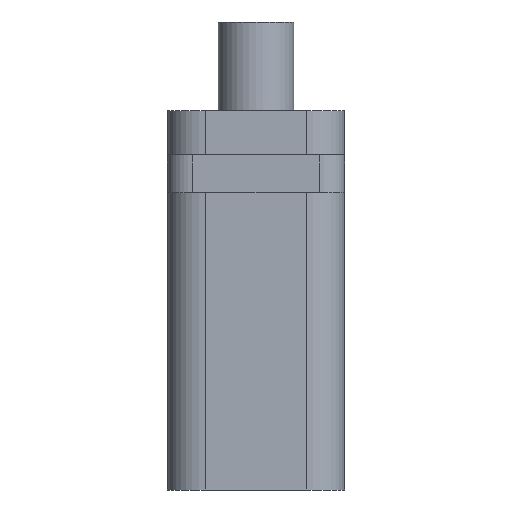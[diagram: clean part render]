
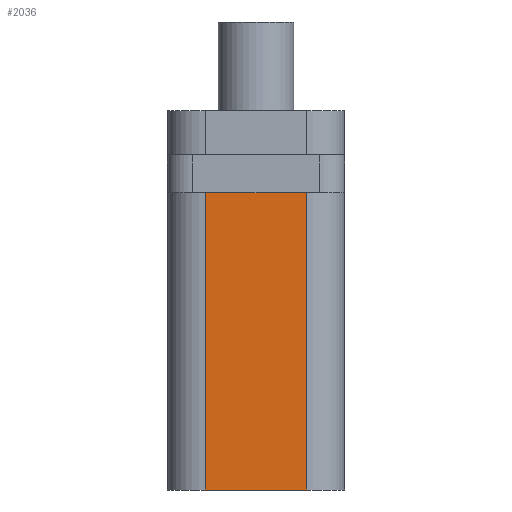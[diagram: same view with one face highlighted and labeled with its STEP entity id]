
A CAD part, left-side view. The second image highlights one B-rep face of the part: STEP entity #2036.
In plain terms, the highlighted planar face has unit normal (-1, 0, 0).
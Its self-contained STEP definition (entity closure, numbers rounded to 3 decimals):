
#761 = PLANE('',#762);
#762 = AXIS2_PLACEMENT_3D('',#763,#764,#765);
#763 = CARTESIAN_POINT('',(-12.,-7.,-15.));
#764 = DIRECTION('',(0.,0.,1.));
#765 = DIRECTION('',(1.,0.,0.));
#789 = CYLINDRICAL_SURFACE('',#790,3.);
#790 = AXIS2_PLACEMENT_3D('',#791,#792,#793);
#791 = CARTESIAN_POINT('',(-9.,-4.,-15.));
#792 = DIRECTION('',(0.,0.,1.));
#793 = DIRECTION('',(-1.,-0.,0.));
#817 = PLANE('',#818);
#818 = AXIS2_PLACEMENT_3D('',#819,#820,#821);
#819 = CARTESIAN_POINT('',(-14.,-7.,8.5));
#820 = DIRECTION('',(0.,0.,1.));
#821 = DIRECTION('',(1.,0.,0.));
#1020 = CYLINDRICAL_SURFACE('',#1021,3.);
#1021 = AXIS2_PLACEMENT_3D('',#1022,#1023,#1024);
#1022 = CARTESIAN_POINT('',(-9.,4.,-15.));
#1023 = DIRECTION('',(0.,0.,1.));
#1024 = DIRECTION('',(-1.,-0.,0.));
#1710 = EDGE_CURVE('',#1711,#1713,#1715,.T.);
#1711 = VERTEX_POINT('',#1712);
#1712 = CARTESIAN_POINT('',(-12.,-4.,-15.));
#1713 = VERTEX_POINT('',#1714);
#1714 = CARTESIAN_POINT('',(-12.,4.,-15.));
#1715 = SURFACE_CURVE('',#1716,(#1720,#1727),.PCURVE_S1.);
#1716 = LINE('',#1717,#1718);
#1717 = CARTESIAN_POINT('',(-12.,-7.,-15.));
#1718 = VECTOR('',#1719,1.);
#1719 = DIRECTION('',(0.,1.,0.));
#1720 = PCURVE('',#761,#1721);
#1721 = DEFINITIONAL_REPRESENTATION('',(#1722),#1726);
#1722 = LINE('',#1723,#1724);
#1723 = CARTESIAN_POINT('',(0.,0.));
#1724 = VECTOR('',#1725,1.);
#1725 = DIRECTION('',(0.,1.));
#1726 = ( GEOMETRIC_REPRESENTATION_CONTEXT(2) 
PARAMETRIC_REPRESENTATION_CONTEXT() REPRESENTATION_CONTEXT('2D SPACE',''
  ) );
#1727 = PCURVE('',#1728,#1733);
#1728 = PLANE('',#1729);
#1729 = AXIS2_PLACEMENT_3D('',#1730,#1731,#1732);
#1730 = CARTESIAN_POINT('',(-12.,-7.,-15.));
#1731 = DIRECTION('',(1.,0.,0.));
#1732 = DIRECTION('',(0.,0.,1.));
#1733 = DEFINITIONAL_REPRESENTATION('',(#1734),#1738);
#1734 = LINE('',#1735,#1736);
#1735 = CARTESIAN_POINT('',(0.,0.));
#1736 = VECTOR('',#1737,1.);
#1737 = DIRECTION('',(0.,-1.));
#1738 = ( GEOMETRIC_REPRESENTATION_CONTEXT(2) 
PARAMETRIC_REPRESENTATION_CONTEXT() REPRESENTATION_CONTEXT('2D SPACE',''
  ) );
#1839 = EDGE_CURVE('',#1711,#1840,#1842,.T.);
#1840 = VERTEX_POINT('',#1841);
#1841 = CARTESIAN_POINT('',(-12.,-4.,8.5));
#1842 = SURFACE_CURVE('',#1843,(#1847,#1854),.PCURVE_S1.);
#1843 = LINE('',#1844,#1845);
#1844 = CARTESIAN_POINT('',(-12.,-4.,-15.));
#1845 = VECTOR('',#1846,1.);
#1846 = DIRECTION('',(0.,0.,1.));
#1847 = PCURVE('',#789,#1848);
#1848 = DEFINITIONAL_REPRESENTATION('',(#1849),#1853);
#1849 = LINE('',#1850,#1851);
#1850 = CARTESIAN_POINT('',(0.,0.));
#1851 = VECTOR('',#1852,1.);
#1852 = DIRECTION('',(0.,1.));
#1853 = ( GEOMETRIC_REPRESENTATION_CONTEXT(2) 
PARAMETRIC_REPRESENTATION_CONTEXT() REPRESENTATION_CONTEXT('2D SPACE',''
  ) );
#1854 = PCURVE('',#1728,#1855);
#1855 = DEFINITIONAL_REPRESENTATION('',(#1856),#1860);
#1856 = LINE('',#1857,#1858);
#1857 = CARTESIAN_POINT('',(0.,-3.));
#1858 = VECTOR('',#1859,1.);
#1859 = DIRECTION('',(1.,0.));
#1860 = ( GEOMETRIC_REPRESENTATION_CONTEXT(2) 
PARAMETRIC_REPRESENTATION_CONTEXT() REPRESENTATION_CONTEXT('2D SPACE',''
  ) );
#1893 = EDGE_CURVE('',#1894,#1840,#1896,.T.);
#1894 = VERTEX_POINT('',#1895);
#1895 = CARTESIAN_POINT('',(-12.,4.,8.5));
#1896 = SURFACE_CURVE('',#1897,(#1901,#1907),.PCURVE_S1.);
#1897 = LINE('',#1898,#1899);
#1898 = CARTESIAN_POINT('',(-12.,-7.,8.5));
#1899 = VECTOR('',#1900,1.);
#1900 = DIRECTION('',(0.,-1.,0.));
#1901 = PCURVE('',#817,#1902);
#1902 = DEFINITIONAL_REPRESENTATION('',(#1903),#1906);
#1903 = B_SPLINE_CURVE_WITH_KNOTS('',1,(#1904,#1905),.UNSPECIFIED.,.F.,
  .F.,(2,2),(-11.,-3.),.PIECEWISE_BEZIER_KNOTS.);
#1904 = CARTESIAN_POINT('',(2.,11.));
#1905 = CARTESIAN_POINT('',(2.,3.));
#1906 = ( GEOMETRIC_REPRESENTATION_CONTEXT(2) 
PARAMETRIC_REPRESENTATION_CONTEXT() REPRESENTATION_CONTEXT('2D SPACE',''
  ) );
#1907 = PCURVE('',#1728,#1908);
#1908 = DEFINITIONAL_REPRESENTATION('',(#1909),#1912);
#1909 = B_SPLINE_CURVE_WITH_KNOTS('',1,(#1910,#1911),.UNSPECIFIED.,.F.,
  .F.,(2,2),(-11.,-3.),.PIECEWISE_BEZIER_KNOTS.);
#1910 = CARTESIAN_POINT('',(23.5,-11.));
#1911 = CARTESIAN_POINT('',(23.5,-3.));
#1912 = ( GEOMETRIC_REPRESENTATION_CONTEXT(2) 
PARAMETRIC_REPRESENTATION_CONTEXT() REPRESENTATION_CONTEXT('2D SPACE',''
  ) );
#1995 = EDGE_CURVE('',#1713,#1894,#1996,.T.);
#1996 = SURFACE_CURVE('',#1997,(#2001,#2008),.PCURVE_S1.);
#1997 = LINE('',#1998,#1999);
#1998 = CARTESIAN_POINT('',(-12.,4.,-15.));
#1999 = VECTOR('',#2000,1.);
#2000 = DIRECTION('',(0.,0.,1.));
#2001 = PCURVE('',#1020,#2002);
#2002 = DEFINITIONAL_REPRESENTATION('',(#2003),#2007);
#2003 = LINE('',#2004,#2005);
#2004 = CARTESIAN_POINT('',(-0.,0.));
#2005 = VECTOR('',#2006,1.);
#2006 = DIRECTION('',(-0.,1.));
#2007 = ( GEOMETRIC_REPRESENTATION_CONTEXT(2) 
PARAMETRIC_REPRESENTATION_CONTEXT() REPRESENTATION_CONTEXT('2D SPACE',''
  ) );
#2008 = PCURVE('',#1728,#2009);
#2009 = DEFINITIONAL_REPRESENTATION('',(#2010),#2014);
#2010 = LINE('',#2011,#2012);
#2011 = CARTESIAN_POINT('',(0.,-11.));
#2012 = VECTOR('',#2013,1.);
#2013 = DIRECTION('',(1.,0.));
#2014 = ( GEOMETRIC_REPRESENTATION_CONTEXT(2) 
PARAMETRIC_REPRESENTATION_CONTEXT() REPRESENTATION_CONTEXT('2D SPACE',''
  ) );
#2036 = ADVANCED_FACE('',(#2037),#1728,.F.);
#2037 = FACE_BOUND('',#2038,.F.);
#2038 = EDGE_LOOP('',(#2039,#2040,#2041,#2042));
#2039 = ORIENTED_EDGE('',*,*,#1893,.T.);
#2040 = ORIENTED_EDGE('',*,*,#1839,.F.);
#2041 = ORIENTED_EDGE('',*,*,#1710,.T.);
#2042 = ORIENTED_EDGE('',*,*,#1995,.T.);
